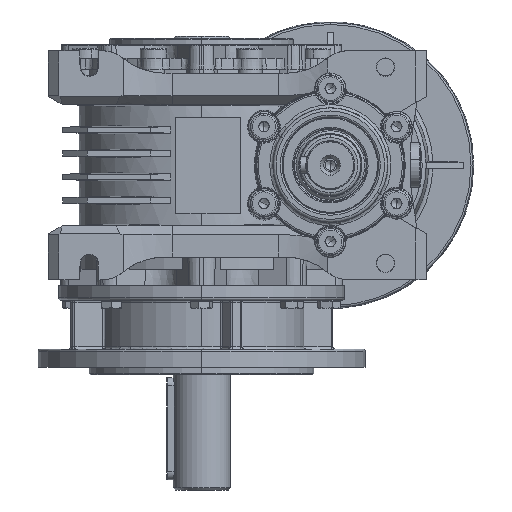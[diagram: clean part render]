
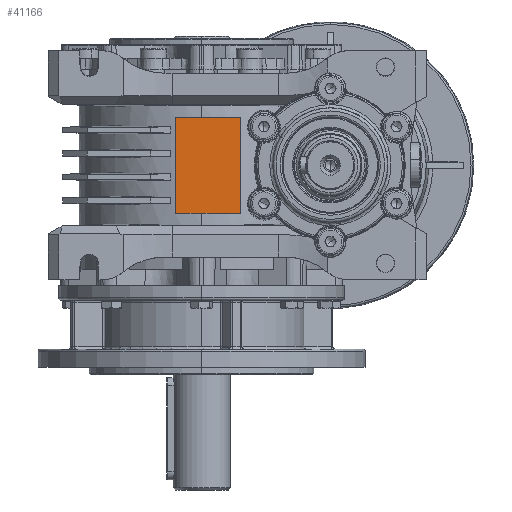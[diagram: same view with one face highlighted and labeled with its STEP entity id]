
A CAD part, left-side view. The second image highlights one B-rep face of the part: STEP entity #41166.
In plain terms, the highlighted planar face has unit normal (-1, 0, 0).
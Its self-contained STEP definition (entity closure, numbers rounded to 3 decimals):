
#4379 = DIRECTION ( 'NONE',  ( 0., -1., 0. ) ) ;
#9112 = CARTESIAN_POINT ( 'NONE',  ( -58.575, -19., -23.5 ) ) ;
#10362 = DIRECTION ( 'NONE',  ( -1., 0., 0. ) ) ;
#16154 = ORIENTED_EDGE ( 'NONE', *, *, #141974, .T. ) ;
#19112 = DIRECTION ( 'NONE',  ( 0., -1., 0. ) ) ;
#33010 = CARTESIAN_POINT ( 'NONE',  ( -58.575, -13., 23.5 ) ) ;
#33564 = DIRECTION ( 'NONE',  ( 0., -1., 0. ) ) ;
#35419 = VERTEX_POINT ( 'NONE', #105865 ) ;
#41166 = ADVANCED_FACE ( 'NONE', ( #99503 ), #76334, .T. ) ;
#50130 = LINE ( 'NONE', #58872, #119114 ) ;
#51069 = LINE ( 'NONE', #106180, #114067 ) ;
#58102 = AXIS2_PLACEMENT_3D ( 'NONE', #120620, #10362, #33564 ) ;
#58568 = VECTOR ( 'NONE', #109626, 1000. ) ;
#58872 = CARTESIAN_POINT ( 'NONE',  ( -58.575, -13., -23.5 ) ) ;
#62163 = CARTESIAN_POINT ( 'NONE',  ( -58.575, -19., -23.5 ) ) ;
#62431 = EDGE_CURVE ( 'NONE', #92635, #132966, #51069, .T. ) ;
#63494 = LINE ( 'NONE', #142500, #66056 ) ;
#66056 = VECTOR ( 'NONE', #129511, 1000. ) ;
#69547 = ORIENTED_EDGE ( 'NONE', *, *, #86784, .T. ) ;
#71597 = LINE ( 'NONE', #62163, #75199 ) ;
#72936 = VERTEX_POINT ( 'NONE', #9112 ) ;
#73928 = ORIENTED_EDGE ( 'NONE', *, *, #91394, .T. ) ;
#74428 = DIRECTION ( 'NONE',  ( 0., 0., 1. ) ) ;
#75199 = VECTOR ( 'NONE', #74428, 1000. ) ;
#76334 = PLANE ( 'NONE',  #58102 ) ;
#77892 = ORIENTED_EDGE ( 'NONE', *, *, #113920, .F. ) ;
#80281 = EDGE_LOOP ( 'NONE', ( #90112, #89307, #69547, #73928, #77892, #16154 ) ) ;
#81593 = CARTESIAN_POINT ( 'NONE',  ( -58.575, -19., 23.5 ) ) ;
#86784 = EDGE_CURVE ( 'NONE', #92635, #94748, #141578, .T. ) ;
#87109 = LINE ( 'NONE', #107477, #58568 ) ;
#89307 = ORIENTED_EDGE ( 'NONE', *, *, #62431, .F. ) ;
#90112 = ORIENTED_EDGE ( 'NONE', *, *, #128744, .T. ) ;
#91394 = EDGE_CURVE ( 'NONE', #94748, #103720, #63494, .T. ) ;
#92635 = VERTEX_POINT ( 'NONE', #33010 ) ;
#94748 = VERTEX_POINT ( 'NONE', #143373 ) ;
#95950 = CARTESIAN_POINT ( 'NONE',  ( -58.575, -19., 23.5 ) ) ;
#99503 = FACE_OUTER_BOUND ( 'NONE', #80281, .T. ) ;
#103720 = VERTEX_POINT ( 'NONE', #134321 ) ;
#105865 = CARTESIAN_POINT ( 'NONE',  ( -58.575, -13., -23.5 ) ) ;
#106180 = CARTESIAN_POINT ( 'NONE',  ( -58.575, -13., 23.5 ) ) ;
#107477 = CARTESIAN_POINT ( 'NONE',  ( -58.575, -19., -23.5 ) ) ;
#109626 = DIRECTION ( 'NONE',  ( 0., 1., 0. ) ) ;
#113920 = EDGE_CURVE ( 'NONE', #35419, #103720, #87109, .T. ) ;
#114067 = VECTOR ( 'NONE', #19112, 1000. ) ;
#116087 = VECTOR ( 'NONE', #119894, 1000. ) ;
#119114 = VECTOR ( 'NONE', #4379, 1000. ) ;
#119894 = DIRECTION ( 'NONE',  ( 0., 1., 0. ) ) ;
#120620 = CARTESIAN_POINT ( 'NONE',  ( -58.575, -13., -23.5 ) ) ;
#128744 = EDGE_CURVE ( 'NONE', #72936, #132966, #71597, .T. ) ;
#129511 = DIRECTION ( 'NONE',  ( 0., 0., -1. ) ) ;
#132966 = VERTEX_POINT ( 'NONE', #81593 ) ;
#134321 = CARTESIAN_POINT ( 'NONE',  ( -58.575, 13., -23.5 ) ) ;
#141578 = LINE ( 'NONE', #95950, #116087 ) ;
#141974 = EDGE_CURVE ( 'NONE', #35419, #72936, #50130, .T. ) ;
#142500 = CARTESIAN_POINT ( 'NONE',  ( -58.575, 13., 40.5 ) ) ;
#143373 = CARTESIAN_POINT ( 'NONE',  ( -58.575, 13., 23.5 ) ) ;
